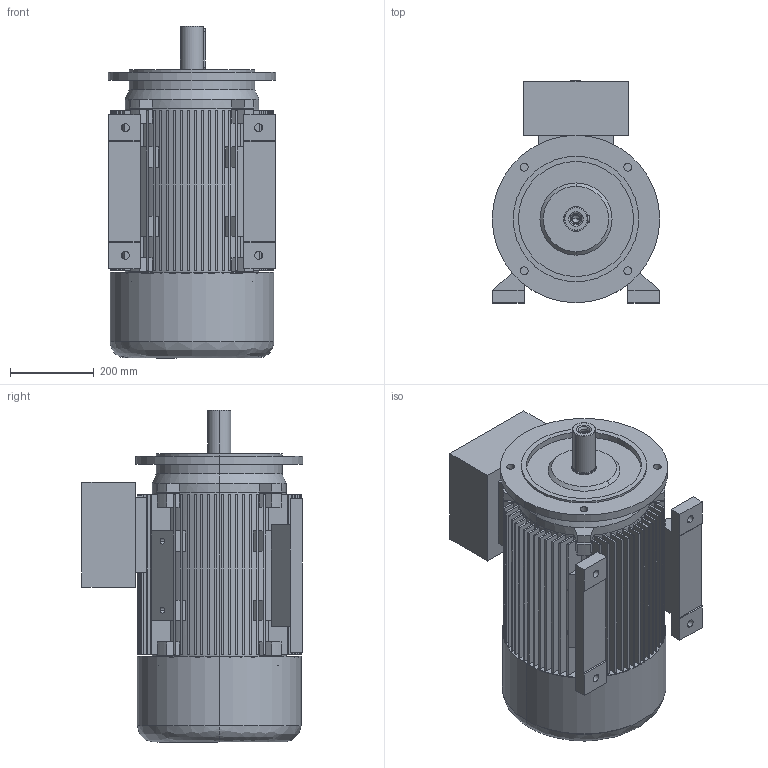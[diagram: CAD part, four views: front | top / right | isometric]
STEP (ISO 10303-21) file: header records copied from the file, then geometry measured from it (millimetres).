
FILE_DESCRIPTION (( 'STEP AP203' ), '1' );
FILE_NAME ('20.18371_C 7AZ 200 B35 STANDK.STEP', '2018-05-15T11:23:02', ( '' ), ( '' ), 'SwSTEP 2.0', 'SolidWorks 2017', '' );
FILE_SCHEMA (( 'CONFIG_CONTROL_DESIGN' ));
Length unit declared in the file: millimetre
Products named in the file (1): 20.18371_C  7AZ 200 B35 STANDK
Bounding box: 400 x 530 x 793 mm (x, y, z)
Volume: 31321205.8 mm3; surface area: 4588744.7 mm2
Topology: 13 solids, 16 shells, 827 faces, 2187 edges, 1430 vertices
Faces by surface type: plane 585, cylinder 191, cone 38, bspline 13
Entity records: 26310 total; most frequent: CARTESIAN_POINT 5332, DIRECTION 4380, ORIENTED_EDGE 4338, EDGE_CURVE 2169, LINE 1504, VECTOR 1504, AXIS2_PLACEMENT_3D 1438, VERTEX_POINT 1430
